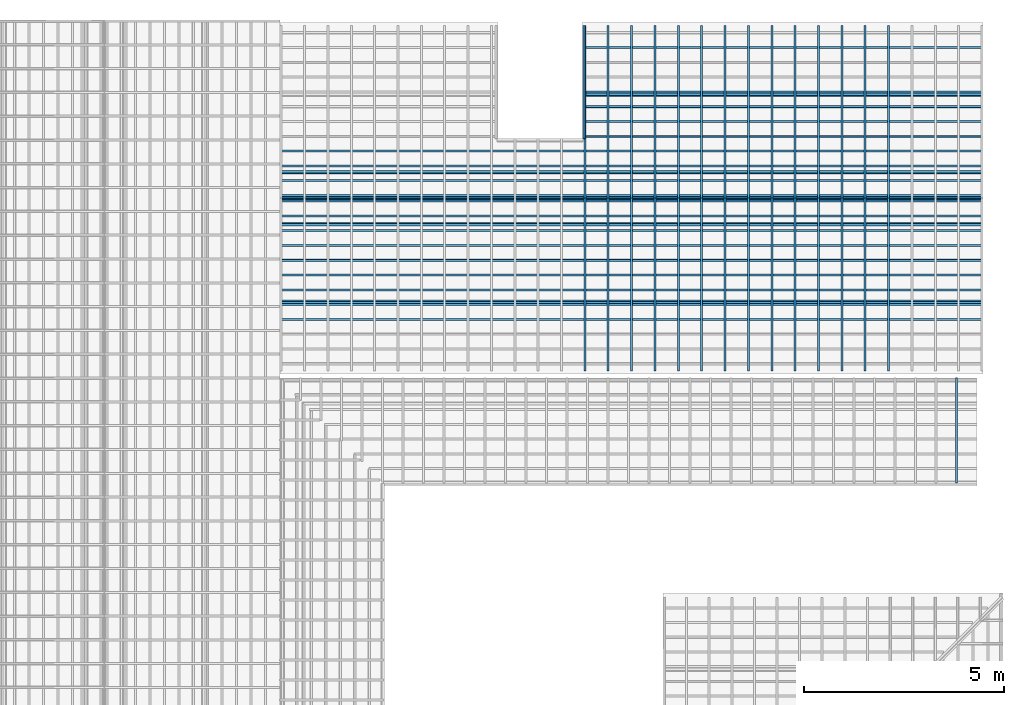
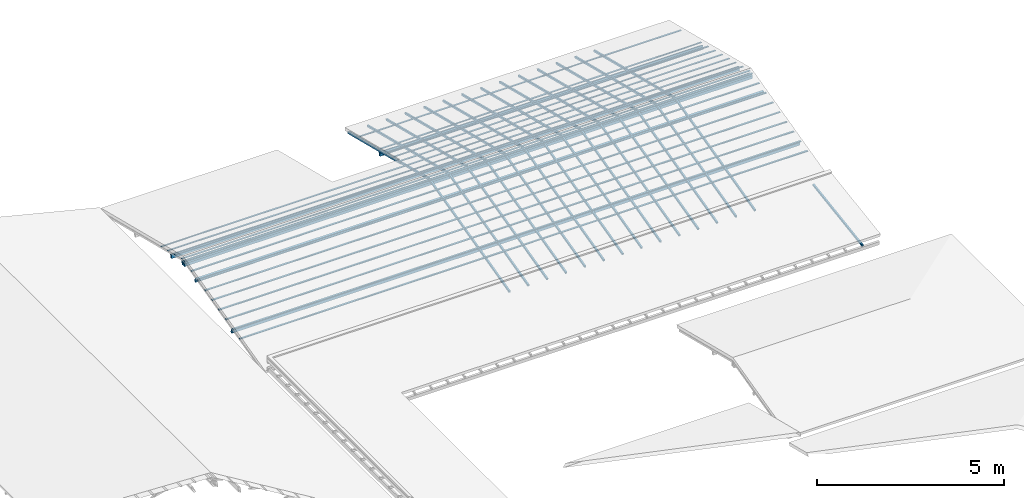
# One storey, part 7 of 10: 54 members, 4 elements without a shape of their own.
"""IFC2X3 building model written with IfcOpenShell, lengths in metres."""

from ifc_helpers import new_model, entity, si_unit, converted_unit, derived_unit, direction, frame, frame_2d, origin, origin_2d_with_axis, place, context, subcontext, project, spatial, rectangle, extrude, clip, halfspace, source, transform, mapped, material, type_object, type_shapes, element, aggregate, save


model = new_model("IFC2X3")

# Units and contexts
model_context = context("Model", 3, precision=1e-05, world=origin(), true_north=direction((6.12303176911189e-17, 1.0)))
body_context = subcontext(model_context, "Body", "Model", "MODEL_VIEW")
ifc_project = project(units=[si_unit("LENGTHUNIT", "METRE"), si_unit("AREAUNIT", "SQUARE_METRE"), si_unit("VOLUMEUNIT", "CUBIC_METRE"), converted_unit("PLANEANGLEUNIT", "DEGREE", entity("IfcRatioMeasure", 0.0174532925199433), si_unit("PLANEANGLEUNIT", "RADIAN"), dimensions=[0, 0, 0, 0, 0, 0, 0]), si_unit("MASSUNIT", "GRAM", prefix="KILO"), derived_unit("MASSDENSITYUNIT", [(si_unit("MASSUNIT", "GRAM", prefix="KILO"), 1), (si_unit("LENGTHUNIT", "METRE"), -3)]), si_unit("TIMEUNIT", "SECOND"), si_unit("FREQUENCYUNIT", "HERTZ"), si_unit("THERMODYNAMICTEMPERATUREUNIT", "DEGREE_CELSIUS"), derived_unit("THERMALTRANSMITTANCEUNIT", [(si_unit("MASSUNIT", "GRAM", prefix="KILO"), 1), (si_unit("THERMODYNAMICTEMPERATUREUNIT", "KELVIN"), -1), (si_unit("TIMEUNIT", "SECOND"), -3)]), derived_unit("VOLUMETRICFLOWRATEUNIT", [(si_unit("LENGTHUNIT", "METRE"), 3), (si_unit("TIMEUNIT", "SECOND"), -1)]), si_unit("ELECTRICCURRENTUNIT", "AMPERE"), si_unit("ELECTRICVOLTAGEUNIT", "VOLT"), si_unit("POWERUNIT", "WATT"), si_unit("FORCEUNIT", "NEWTON", prefix="KILO"), si_unit("ILLUMINANCEUNIT", "LUX"), si_unit("LUMINOUSFLUXUNIT", "LUMEN"), si_unit("LUMINOUSINTENSITYUNIT", "CANDELA"), derived_unit("USERDEFINED", [(si_unit("MASSUNIT", "GRAM", prefix="KILO"), -1), (si_unit("LENGTHUNIT", "METRE"), -2), (si_unit("TIMEUNIT", "SECOND"), 3), (si_unit("LUMINOUSFLUXUNIT", "LUMEN"), 1)]), derived_unit("LINEARVELOCITYUNIT", [(si_unit("LENGTHUNIT", "METRE"), 1), (si_unit("TIMEUNIT", "SECOND"), -1)]), si_unit("PRESSUREUNIT", "PASCAL"), derived_unit("USERDEFINED", [(si_unit("LENGTHUNIT", "METRE"), -2), (si_unit("MASSUNIT", "GRAM", prefix="KILO"), 1), (si_unit("TIMEUNIT", "SECOND"), -2)])], contexts=[model_context])

# Site, building, storey
site_placement = place(None, frame((26.9889013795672, -17.5624287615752, 0.0)))
site = spatial("IfcSite", under=ifc_project, at=site_placement, Name="Default", CompositionType="ELEMENT")
building_placement = place(site_placement, origin())
building = spatial("IfcBuilding", under=site, at=building_placement, Name="C. C. L. Monsenhor Antônio Sampaio", CompositionType="ELEMENT")
storey_placement = place(building_placement, frame((0.0, 0.0, 4.3)))
storey = spatial("IfcBuildingStorey", under=building, at=storey_placement, Name="COBERTURA BLOCO 01", CompositionType="ELEMENT", Elevation=4.3)

# Roof, member
curtain_wall_type_1 = type_object("IfcCurtainWallType", PredefinedType="NOTDEFINED")
roof_1_placement = place(storey_placement, frame((0.0, 0.0, -4.3)))
roof_1 = element("IfcRoof", 1, at=roof_1_placement, inside=storey, type_object=curtain_wall_type_1, ShapeType="NOTDEFINED")
ifc_material = material(Name=".Madeira")
member_type_1 = type_object("IfcMemberType", Name="6x5 cm", PredefinedType="MEMBER")
shared_shape_1 = source(origin(), body_context, "Body", "SweptSolid", [
    extrude(rectangle(XDim=0.06, YDim=0.05, at=origin_2d_with_axis()), frame((0.0, 0.05, -2.66464666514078), z_axis=(0.0, 0.0, 1.0), x_axis=(0.0, -1.0, 0.0)), (0.0, 0.0, 1.0), 2.66464666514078),
])
type_shapes(member_type_1, [shared_shape_1])
member_1_placement = place(storey_placement, frame((11.0670947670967, -16.9030663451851, 0.599737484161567), z_axis=(0.0, 0.988936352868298, 0.148340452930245), x_axis=(1.0, 0.0, 0.0)))
member_1 = element("IfcMember", 2, at=member_1_placement, type_object=member_type_1, material=ifc_material, Name="Rectangular Mullion:6x5 cm", ObjectType="6x5 cm", context=body_context, shape_type="MappedRepresentation", body=[
    mapped(shared_shape_1, transform((0.0, 0.0, 0.0), scale=1.0)),
])
aggregate(roof_1, [member_1])

# Roof, members
curtain_wall_type_2 = type_object("IfcCurtainWallType", PredefinedType="NOTDEFINED")
roof_2_placement = place(storey_placement, frame((0.0, 0.0, -4.3)))
roof_2 = element("IfcRoof", 3, at=roof_2_placement, inside=storey, type_object=curtain_wall_type_2, ShapeType="NOTDEFINED")
member_type_2 = type_object("IfcMemberType", Name="Ripa", PredefinedType="MEMBER")
shared_shape_2 = source(origin(), body_context, "Body", "SweptSolid", [
    extrude(rectangle(XDim=0.015, YDim=0.05, at=frame_2d((-1.69135538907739e-17, 0.0), x_axis=(1.0, 0.0))), frame((-0.025, -0.1875, -17.5700000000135), z_axis=(0.0, 0.0, 1.0), x_axis=(0.0, -1.0, 0.0)), (0.0, 0.0, 1.0), 17.5700000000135),
])
type_shapes(member_type_2, [shared_shape_2])
member_2_placement = place(storey_placement, frame((11.7294477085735, -12.4130663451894, 1.11115528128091), z_axis=(1.0, 0.0, 0.0), x_axis=(0.0, -0.970142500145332, 0.242535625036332)))
member_2 = element("IfcMember", 4, at=member_2_placement, type_object=member_type_2, material=ifc_material, Name="Rectangular Mullion:Ripa", ObjectType="Ripa", context=body_context, shape_type="MappedRepresentation", body=[
    mapped(shared_shape_2, transform((0.0, 0.0, 0.0), scale=1.0)),
])
member_3_placement = place(storey_placement, frame((-5.84055229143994, -12.4130663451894, 1.11115528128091), z_axis=(-1.0, 0.0, 0.0), x_axis=(0.0, 0.970142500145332, 0.242535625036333)))
member_3 = element("IfcMember", 5, at=member_3_placement, type_object=member_type_2, material=ifc_material, Name="Rectangular Mullion:Ripa", ObjectType="Ripa", context=body_context, shape_type="MappedRepresentation", body=[
    mapped(shared_shape_2, transform((0.0, 0.0, 0.0), scale=1.0)),
])
member_type_3 = type_object("IfcMemberType", Name="Ripa", PredefinedType="MEMBER")
shared_shape_3 = source(origin(), body_context, "Body", "SweptSolid", [
    extrude(rectangle(XDim=0.015, YDim=0.05, at=frame_2d((-1.69135538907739e-17, 0.0), x_axis=(1.0, 0.0))), frame((0.025, -0.1875, -10.0), z_axis=(0.0, 0.0, 1.0), x_axis=(0.0, -1.0, 0.0)), (0.0, 0.0, 1.0), 9.99999999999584),
])
type_shapes(member_type_3, [shared_shape_3])
member_4_placement = place(storey_placement, frame((11.7294477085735, -8.66685979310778, 0.174603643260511), z_axis=(1.0, 0.0, 0.0), x_axis=(0.0, -0.970142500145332, 0.242535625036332)))
member_4 = element("IfcMember", 6, at=member_4_placement, type_object=member_type_3, material=ifc_material, Name="Rectangular Mullion:Ripa", ObjectType="Ripa", context=body_context, shape_type="MappedRepresentation", body=[
    mapped(shared_shape_3, transform((0.0, 0.0, 0.0), scale=1.0)),
])
member_5_placement = place(storey_placement, frame((11.7294477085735, -9.77616962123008, 0.451931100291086), z_axis=(1.0, 0.0, 0.0), x_axis=(0.0, -0.970142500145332, 0.242535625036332)))
member_5 = element("IfcMember", 7, at=member_5_placement, type_object=member_type_3, material=ifc_material, Name="Rectangular Mullion:Ripa", ObjectType="Ripa", context=body_context, shape_type="MappedRepresentation", body=[
    mapped(shared_shape_3, transform((0.0, 0.0, 0.0), scale=1.0)),
])
member_6_placement = place(storey_placement, frame((11.7294477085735, -10.1459395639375, 0.544373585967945), z_axis=(1.0, 0.0, 0.0), x_axis=(0.0, -0.970142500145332, 0.242535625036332)))
member_6 = element("IfcMember", 8, at=member_6_placement, type_object=member_type_3, material=ifc_material, Name="Rectangular Mullion:Ripa", ObjectType="Ripa", context=body_context, shape_type="MappedRepresentation", body=[
    mapped(shared_shape_3, transform((0.0, 0.0, 0.0), scale=1.0)),
])
member_7_placement = place(storey_placement, frame((11.7294477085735, -10.5157095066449, 0.636816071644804), z_axis=(1.0, 0.0, 0.0), x_axis=(0.0, -0.970142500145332, 0.242535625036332)))
member_7 = element("IfcMember", 9, at=member_7_placement, type_object=member_type_3, material=ifc_material, Name="Rectangular Mullion:Ripa", ObjectType="Ripa", context=body_context, shape_type="MappedRepresentation", body=[
    mapped(shared_shape_3, transform((0.0, 0.0, 0.0), scale=1.0)),
])
member_8_placement = place(storey_placement, frame((11.7294477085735, -10.8854794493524, 0.729258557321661), z_axis=(1.0, 0.0, 0.0), x_axis=(0.0, -0.970142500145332, 0.242535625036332)))
member_8 = element("IfcMember", 10, at=member_8_placement, type_object=member_type_3, material=ifc_material, Name="Rectangular Mullion:Ripa", ObjectType="Ripa", context=body_context, shape_type="MappedRepresentation", body=[
    mapped(shared_shape_3, transform((0.0, 0.0, 0.0), scale=1.0)),
])
member_type_4 = type_object("IfcMemberType", Name="Ripa", PredefinedType="MEMBER")
shared_shape_4 = source(origin(), body_context, "Body", "SweptSolid", [
    extrude(rectangle(XDim=0.015, YDim=0.05, at=frame_2d((-1.69135538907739e-17, 0.0), x_axis=(1.0, 0.0))), frame((0.025, -0.1875, -17.5700000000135), z_axis=(0.0, 0.0, 1.0), x_axis=(0.0, -1.0, 0.0)), (0.0, 0.0, 1.0), 17.5700000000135),
])
type_shapes(member_type_4, [shared_shape_4])
member_9_placement = place(storey_placement, frame((11.7294477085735, -11.2552493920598, 0.821701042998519), z_axis=(1.0, 0.0, 0.0), x_axis=(0.0, -0.970142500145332, 0.242535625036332)))
member_9 = element("IfcMember", 11, at=member_9_placement, type_object=member_type_4, material=ifc_material, Name="Rectangular Mullion:Ripa", ObjectType="Ripa", context=body_context, shape_type="MappedRepresentation", body=[
    mapped(shared_shape_4, transform((0.0, 0.0, 0.0), scale=1.0)),
])
member_10_placement = place(storey_placement, frame((11.7294477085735, -11.6250193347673, 0.914143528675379), z_axis=(1.0, 0.0, 0.0), x_axis=(0.0, -0.970142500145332, 0.242535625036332)))
member_10 = element("IfcMember", 12, at=member_10_placement, type_object=member_type_4, material=ifc_material, Name="Rectangular Mullion:Ripa", ObjectType="Ripa", context=body_context, shape_type="MappedRepresentation", body=[
    mapped(shared_shape_4, transform((0.0, 0.0, 0.0), scale=1.0)),
])
member_11_placement = place(storey_placement, frame((11.7294477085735, -11.9947892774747, 1.00658601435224), z_axis=(1.0, 0.0, 0.0), x_axis=(0.0, -0.970142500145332, 0.242535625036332)))
member_11 = element("IfcMember", 13, at=member_11_placement, type_object=member_type_4, material=ifc_material, Name="Rectangular Mullion:Ripa", ObjectType="Ripa", context=body_context, shape_type="MappedRepresentation", body=[
    mapped(shared_shape_4, transform((0.0, 0.0, 0.0), scale=1.0)),
])
member_12_placement = place(storey_placement, frame((-5.84055229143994, -15.4197330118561, 0.359488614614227), z_axis=(-1.0, 0.0, 0.0), x_axis=(0.0, 0.970142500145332, 0.242535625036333)))
member_12 = element("IfcMember", 14, at=member_12_placement, type_object=member_type_4, material=ifc_material, Name="Rectangular Mullion:Ripa", ObjectType="Ripa", context=body_context, shape_type="MappedRepresentation", body=[
    mapped(shared_shape_4, transform((0.0, 0.0, 0.0), scale=1.0)),
])
member_13_placement = place(storey_placement, frame((-5.84055229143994, -15.0499630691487, 0.451931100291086), z_axis=(-1.0, 0.0, 0.0), x_axis=(0.0, 0.970142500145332, 0.242535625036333)))
member_13 = element("IfcMember", 15, at=member_13_placement, type_object=member_type_4, material=ifc_material, Name="Rectangular Mullion:Ripa", ObjectType="Ripa", context=body_context, shape_type="MappedRepresentation", body=[
    mapped(shared_shape_4, transform((0.0, 0.0, 0.0), scale=1.0)),
])
member_14_placement = place(storey_placement, frame((-5.84055229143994, -14.6801931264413, 0.544373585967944), z_axis=(-1.0, 0.0, 0.0), x_axis=(0.0, 0.970142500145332, 0.242535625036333)))
member_14 = element("IfcMember", 16, at=member_14_placement, type_object=member_type_4, material=ifc_material, Name="Rectangular Mullion:Ripa", ObjectType="Ripa", context=body_context, shape_type="MappedRepresentation", body=[
    mapped(shared_shape_4, transform((0.0, 0.0, 0.0), scale=1.0)),
])
member_15_placement = place(storey_placement, frame((-5.84055229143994, -14.3104231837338, 0.636816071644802), z_axis=(-1.0, 0.0, 0.0), x_axis=(0.0, 0.970142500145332, 0.242535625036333)))
member_15 = element("IfcMember", 17, at=member_15_placement, type_object=member_type_4, material=ifc_material, Name="Rectangular Mullion:Ripa", ObjectType="Ripa", context=body_context, shape_type="MappedRepresentation", body=[
    mapped(shared_shape_4, transform((0.0, 0.0, 0.0), scale=1.0)),
])
member_16_placement = place(storey_placement, frame((-5.84055229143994, -13.9406532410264, 0.729258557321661), z_axis=(-1.0, 0.0, 0.0), x_axis=(0.0, 0.970142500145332, 0.242535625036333)))
member_16 = element("IfcMember", 18, at=member_16_placement, type_object=member_type_4, material=ifc_material, Name="Rectangular Mullion:Ripa", ObjectType="Ripa", context=body_context, shape_type="MappedRepresentation", body=[
    mapped(shared_shape_4, transform((0.0, 0.0, 0.0), scale=1.0)),
])
member_17_placement = place(storey_placement, frame((-5.84055229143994, -13.570883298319, 0.821701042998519), z_axis=(-1.0, 0.0, 0.0), x_axis=(0.0, 0.970142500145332, 0.242535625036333)))
member_17 = element("IfcMember", 19, at=member_17_placement, type_object=member_type_4, material=ifc_material, Name="Rectangular Mullion:Ripa", ObjectType="Ripa", context=body_context, shape_type="MappedRepresentation", body=[
    mapped(shared_shape_4, transform((0.0, 0.0, 0.0), scale=1.0)),
])
member_18_placement = place(storey_placement, frame((-5.84055229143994, -13.2011133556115, 0.914143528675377), z_axis=(-1.0, 0.0, 0.0), x_axis=(0.0, 0.970142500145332, 0.242535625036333)))
member_18 = element("IfcMember", 20, at=member_18_placement, type_object=member_type_4, material=ifc_material, Name="Rectangular Mullion:Ripa", ObjectType="Ripa", context=body_context, shape_type="MappedRepresentation", body=[
    mapped(shared_shape_4, transform((0.0, 0.0, 0.0), scale=1.0)),
])
member_19_placement = place(storey_placement, frame((-5.84055229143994, -12.8313434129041, 1.00658601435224), z_axis=(-1.0, 0.0, 0.0), x_axis=(0.0, 0.970142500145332, 0.242535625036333)))
member_19 = element("IfcMember", 21, at=member_19_placement, type_object=member_type_4, material=ifc_material, Name="Rectangular Mullion:Ripa", ObjectType="Ripa", context=body_context, shape_type="MappedRepresentation", body=[
    mapped(shared_shape_4, transform((0.0, 0.0, 0.0), scale=1.0)),
])
aggregate(roof_2, [member_2, member_4, member_5, member_6, member_7, member_8, member_9, member_10, member_11, member_3, member_12, member_13, member_14, member_15, member_16, member_17, member_18, member_19])

curtain_wall_type_3 = type_object("IfcCurtainWallType", PredefinedType="NOTDEFINED")
roof_3_placement = place(storey_placement, frame((0.0, 0.0, -4.3)))
roof_3 = element("IfcRoof", 22, at=roof_3_placement, inside=storey, type_object=curtain_wall_type_3, ShapeType="NOTDEFINED")
member_type_5 = type_object("IfcMemberType", Name="Terça", PredefinedType="MEMBER")
shared_shape_5 = source(origin(), body_context, "Body", "SweptSolid", [
    extrude(rectangle(XDim=0.12, YDim=0.0599999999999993, at=origin_2d_with_axis()), frame((-0.0299999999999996, -0.06, -17.5700000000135), z_axis=(0.0, 0.0, 1.0), x_axis=(0.0, -1.0, 0.0)), (0.0, 0.0, 1.0), 17.5700000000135),
])
type_shapes(member_type_5, [shared_shape_5])
member_20_placement = place(storey_placement, frame((-5.84055229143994, -12.4130663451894, 1.11182764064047), z_axis=(-1.0, 0.0, 0.0), x_axis=(0.0, 0.970142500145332, 0.242535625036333)))
member_20 = element("IfcMember", 23, at=member_20_placement, type_object=member_type_5, material=ifc_material, Name="Rectangular Mullion:Terça", ObjectType="Terça", context=body_context, shape_type="MappedRepresentation", body=[
    mapped(shared_shape_5, transform((0.0, 0.0, 0.0), scale=1.0)),
])
member_21_placement = place(storey_placement, frame((11.7294477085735, -12.4130663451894, 1.11182764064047), z_axis=(1.0, 0.0, 0.0), x_axis=(0.0, -0.970142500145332, 0.242535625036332)))
member_21 = element("IfcMember", 24, at=member_21_placement, type_object=member_type_5, material=ifc_material, Name="Rectangular Mullion:Terça", ObjectType="Terça", context=body_context, shape_type="MappedRepresentation", body=[
    mapped(shared_shape_5, transform((0.0, 0.0, 0.0), scale=1.0)),
])
member_type_6 = type_object("IfcMemberType", Name="Terça", PredefinedType="MEMBER")
shared_shape_6 = source(origin(), body_context, "Body", "SweptSolid", [
    extrude(rectangle(XDim=0.12, YDim=0.0599999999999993, at=origin_2d_with_axis()), frame((0.0, -0.06, -17.5700000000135), z_axis=(0.0, 0.0, 1.0), x_axis=(0.0, -1.0, 0.0)), (0.0, 0.0, 1.0), 17.5700000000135),
])
type_shapes(member_type_6, [shared_shape_6])
member_22_placement = place(storey_placement, frame((-5.84055229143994, -14.9876320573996, 0.468186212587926), z_axis=(-1.0, 0.0, 0.0), x_axis=(0.0, 0.970142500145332, 0.242535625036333)))
member_22 = element("IfcMember", 25, at=member_22_placement, type_object=member_type_6, material=ifc_material, Name="Rectangular Mullion:Terça", ObjectType="Terça", context=body_context, shape_type="MappedRepresentation", body=[
    mapped(shared_shape_6, transform((0.0, 0.0, 0.0), scale=1.0)),
])
member_23_placement = place(storey_placement, frame((-5.84055229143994, -13.0473470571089, 0.953257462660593), z_axis=(-1.0, 0.0, 0.0), x_axis=(0.0, 0.970142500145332, 0.242535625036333)))
member_23 = element("IfcMember", 26, at=member_23_placement, type_object=member_type_6, material=ifc_material, Name="Rectangular Mullion:Terça", ObjectType="Terça", context=body_context, shape_type="MappedRepresentation", body=[
    mapped(shared_shape_6, transform((0.0, 0.0, 0.0), scale=1.0)),
])
member_24_placement = place(storey_placement, frame((11.7294477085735, -11.7787856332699, 0.953257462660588), z_axis=(1.0, 0.0, 0.0), x_axis=(0.0, -0.970142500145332, 0.242535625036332)))
member_24 = element("IfcMember", 27, at=member_24_placement, type_object=member_type_6, material=ifc_material, Name="Rectangular Mullion:Terça", ObjectType="Terça", context=body_context, shape_type="MappedRepresentation", body=[
    mapped(shared_shape_6, transform((0.0, 0.0, 0.0), scale=1.0)),
])
member_type_7 = type_object("IfcMemberType", Name="Terça", PredefinedType="MEMBER")
shared_shape_7 = source(origin(), body_context, "Body", "SweptSolid", [
    extrude(rectangle(XDim=0.12, YDim=0.0599999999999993, at=origin_2d_with_axis()), frame((0.0, -0.06, -10.0), z_axis=(0.0, 0.0, 1.0), x_axis=(0.0, -1.0, 0.0)), (0.0, 0.0, 1.0), 9.99999999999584),
])
type_shapes(member_type_7, [shared_shape_7])
member_25_placement = place(storey_placement, frame((11.7294477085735, -9.83850063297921, 0.468186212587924), z_axis=(1.0, 0.0, 0.0), x_axis=(0.0, -0.970142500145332, 0.242535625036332)))
member_25 = element("IfcMember", 28, at=member_25_placement, type_object=member_type_7, material=ifc_material, Name="Rectangular Mullion:Terça", ObjectType="Terça", context=body_context, shape_type="MappedRepresentation", body=[
    mapped(shared_shape_7, transform((0.0, 0.0, 0.0), scale=1.0)),
])
aggregate(roof_3, [member_20, member_22, member_23, member_21, member_25, member_24])

curtain_wall_type_4 = type_object("IfcCurtainWallType", PredefinedType="NOTDEFINED")
roof_4_placement = place(storey_placement, frame((0.0, 0.0, -4.3)))
roof_4 = element("IfcRoof", 29, at=roof_4_placement, inside=storey, type_object=curtain_wall_type_4, ShapeType="NOTDEFINED")
member_type_8 = type_object("IfcMemberType", Name="Caibro", PredefinedType="MEMBER")
shared_shape_8 = source(origin(), body_context, "Body", "Clipping", [
    clip(extrude(rectangle(XDim=0.06, YDim=0.0499999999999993, at=origin_2d_with_axis()), frame((0.0, -0.03, -4.43310795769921), z_axis=(0.0, 0.0, 1.0), x_axis=(0.0, -1.0, 0.0)), (0.0, 0.0, 1.0), 4.44810795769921), halfspace(frame((-0.3048, 0.0, 0.0), z_axis=(0.0, 0.242535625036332, 0.970142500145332), x_axis=(0.0, 0.970142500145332, -0.242535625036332)), False)),
])
type_shapes(member_type_8, [shared_shape_8])
member_26_placement = place(storey_placement, frame((1.77644770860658, -12.4105663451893, 1.23615528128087), z_axis=(0.0, 0.970142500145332, 0.242535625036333), x_axis=(1.0, 0.0, 0.0)))
member_26 = element("IfcMember", 30, at=member_26_placement, type_object=member_type_8, material=ifc_material, Name="Rectangular Mullion:Caibro", ObjectType="Caibro", context=body_context, shape_type="MappedRepresentation", body=[
    mapped(shared_shape_8, transform((0.0, 0.0, 0.0), scale=1.0)),
])
member_27_placement = place(storey_placement, frame((2.36044770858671, -12.4105663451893, 1.23615528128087), z_axis=(0.0, 0.970142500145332, 0.242535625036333), x_axis=(1.0, 0.0, 0.0)))
member_27 = element("IfcMember", 31, at=member_27_placement, type_object=member_type_8, material=ifc_material, Name="Rectangular Mullion:Caibro", ObjectType="Caibro", context=body_context, shape_type="MappedRepresentation", body=[
    mapped(shared_shape_8, transform((0.0, 0.0, 0.0), scale=1.0)),
])
member_28_placement = place(storey_placement, frame((2.94444770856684, -12.4105663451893, 1.23615528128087), z_axis=(0.0, 0.970142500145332, 0.242535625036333), x_axis=(1.0, 0.0, 0.0)))
member_28 = element("IfcMember", 32, at=member_28_placement, type_object=member_type_8, material=ifc_material, Name="Rectangular Mullion:Caibro", ObjectType="Caibro", context=body_context, shape_type="MappedRepresentation", body=[
    mapped(shared_shape_8, transform((0.0, 0.0, 0.0), scale=1.0)),
])
member_29_placement = place(storey_placement, frame((3.52844770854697, -12.4105663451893, 1.23615528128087), z_axis=(0.0, 0.970142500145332, 0.242535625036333), x_axis=(1.0, 0.0, 0.0)))
member_29 = element("IfcMember", 33, at=member_29_placement, type_object=member_type_8, material=ifc_material, Name="Rectangular Mullion:Caibro", ObjectType="Caibro", context=body_context, shape_type="MappedRepresentation", body=[
    mapped(shared_shape_8, transform((0.0, 0.0, 0.0), scale=1.0)),
])
member_30_placement = place(storey_placement, frame((4.1124477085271, -12.4105663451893, 1.23615528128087), z_axis=(0.0, 0.970142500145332, 0.242535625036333), x_axis=(1.0, 0.0, 0.0)))
member_30 = element("IfcMember", 34, at=member_30_placement, type_object=member_type_8, material=ifc_material, Name="Rectangular Mullion:Caibro", ObjectType="Caibro", context=body_context, shape_type="MappedRepresentation", body=[
    mapped(shared_shape_8, transform((0.0, 0.0, 0.0), scale=1.0)),
])
member_31_placement = place(storey_placement, frame((4.69644770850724, -12.4105663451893, 1.23615528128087), z_axis=(0.0, 0.970142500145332, 0.242535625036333), x_axis=(1.0, 0.0, 0.0)))
member_31 = element("IfcMember", 35, at=member_31_placement, type_object=member_type_8, material=ifc_material, Name="Rectangular Mullion:Caibro", ObjectType="Caibro", context=body_context, shape_type="MappedRepresentation", body=[
    mapped(shared_shape_8, transform((0.0, 0.0, 0.0), scale=1.0)),
])
member_32_placement = place(storey_placement, frame((5.28044770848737, -12.4105663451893, 1.23615528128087), z_axis=(0.0, 0.970142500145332, 0.242535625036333), x_axis=(1.0, 0.0, 0.0)))
member_32 = element("IfcMember", 36, at=member_32_placement, type_object=member_type_8, material=ifc_material, Name="Rectangular Mullion:Caibro", ObjectType="Caibro", context=body_context, shape_type="MappedRepresentation", body=[
    mapped(shared_shape_8, transform((0.0, 0.0, 0.0), scale=1.0)),
])
member_33_placement = place(storey_placement, frame((5.8644477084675, -12.4105663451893, 1.23615528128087), z_axis=(0.0, 0.970142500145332, 0.242535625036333), x_axis=(1.0, 0.0, 0.0)))
member_33 = element("IfcMember", 37, at=member_33_placement, type_object=member_type_8, material=ifc_material, Name="Rectangular Mullion:Caibro", ObjectType="Caibro", context=body_context, shape_type="MappedRepresentation", body=[
    mapped(shared_shape_8, transform((0.0, 0.0, 0.0), scale=1.0)),
])
member_34_placement = place(storey_placement, frame((6.44844770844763, -12.4105663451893, 1.23615528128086), z_axis=(0.0, 0.970142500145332, 0.242535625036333), x_axis=(1.0, 0.0, 0.0)))
member_34 = element("IfcMember", 38, at=member_34_placement, type_object=member_type_8, material=ifc_material, Name="Rectangular Mullion:Caibro", ObjectType="Caibro", context=body_context, shape_type="MappedRepresentation", body=[
    mapped(shared_shape_8, transform((0.0, 0.0, 0.0), scale=1.0)),
])
member_35_placement = place(storey_placement, frame((7.03244770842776, -12.4105663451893, 1.23615528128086), z_axis=(0.0, 0.970142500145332, 0.242535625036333), x_axis=(1.0, 0.0, 0.0)))
member_35 = element("IfcMember", 39, at=member_35_placement, type_object=member_type_8, material=ifc_material, Name="Rectangular Mullion:Caibro", ObjectType="Caibro", context=body_context, shape_type="MappedRepresentation", body=[
    mapped(shared_shape_8, transform((0.0, 0.0, 0.0), scale=1.0)),
])
member_36_placement = place(storey_placement, frame((7.61644770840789, -12.4105663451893, 1.23615528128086), z_axis=(0.0, 0.970142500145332, 0.242535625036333), x_axis=(1.0, 0.0, 0.0)))
member_36 = element("IfcMember", 40, at=member_36_placement, type_object=member_type_8, material=ifc_material, Name="Rectangular Mullion:Caibro", ObjectType="Caibro", context=body_context, shape_type="MappedRepresentation", body=[
    mapped(shared_shape_8, transform((0.0, 0.0, 0.0), scale=1.0)),
])
member_37_placement = place(storey_placement, frame((8.20044770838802, -12.4105663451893, 1.23615528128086), z_axis=(0.0, 0.970142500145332, 0.242535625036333), x_axis=(1.0, 0.0, 0.0)))
member_37 = element("IfcMember", 41, at=member_37_placement, type_object=member_type_8, material=ifc_material, Name="Rectangular Mullion:Caibro", ObjectType="Caibro", context=body_context, shape_type="MappedRepresentation", body=[
    mapped(shared_shape_8, transform((0.0, 0.0, 0.0), scale=1.0)),
])
member_38_placement = place(storey_placement, frame((8.78444770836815, -12.4105663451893, 1.23615528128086), z_axis=(0.0, 0.970142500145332, 0.242535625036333), x_axis=(1.0, 0.0, 0.0)))
member_38 = element("IfcMember", 42, at=member_38_placement, type_object=member_type_8, material=ifc_material, Name="Rectangular Mullion:Caibro", ObjectType="Caibro", context=body_context, shape_type="MappedRepresentation", body=[
    mapped(shared_shape_8, transform((0.0, 0.0, 0.0), scale=1.0)),
])
member_39_placement = place(storey_placement, frame((9.36844770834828, -12.4105663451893, 1.23615528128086), z_axis=(0.0, 0.970142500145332, 0.242535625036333), x_axis=(1.0, 0.0, 0.0)))
member_39 = element("IfcMember", 43, at=member_39_placement, type_object=member_type_8, material=ifc_material, Name="Rectangular Mullion:Caibro", ObjectType="Caibro", context=body_context, shape_type="MappedRepresentation", body=[
    mapped(shared_shape_8, transform((0.0, 0.0, 0.0), scale=1.0)),
])
member_40_placement = place(storey_placement, frame((9.36844770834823, -12.4105663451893, 1.23615528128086), z_axis=(0.0, -0.970142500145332, 0.242535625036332), x_axis=(-1.0, 0.0, 0.0)))
member_40 = element("IfcMember", 44, at=member_40_placement, type_object=member_type_8, material=ifc_material, Name="Rectangular Mullion:Caibro", ObjectType="Caibro", context=body_context, shape_type="MappedRepresentation", body=[
    mapped(shared_shape_8, transform((0.0, 0.0, 0.0), scale=1.0)),
])
member_41_placement = place(storey_placement, frame((8.7844477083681, -12.4105663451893, 1.23615528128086), z_axis=(0.0, -0.970142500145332, 0.242535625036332), x_axis=(-1.0, 0.0, 0.0)))
member_41 = element("IfcMember", 45, at=member_41_placement, type_object=member_type_8, material=ifc_material, Name="Rectangular Mullion:Caibro", ObjectType="Caibro", context=body_context, shape_type="MappedRepresentation", body=[
    mapped(shared_shape_8, transform((0.0, 0.0, 0.0), scale=1.0)),
])
member_42_placement = place(storey_placement, frame((8.20044770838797, -12.4105663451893, 1.23615528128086), z_axis=(0.0, -0.970142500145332, 0.242535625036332), x_axis=(-1.0, 0.0, 0.0)))
member_42 = element("IfcMember", 46, at=member_42_placement, type_object=member_type_8, material=ifc_material, Name="Rectangular Mullion:Caibro", ObjectType="Caibro", context=body_context, shape_type="MappedRepresentation", body=[
    mapped(shared_shape_8, transform((0.0, 0.0, 0.0), scale=1.0)),
])
member_43_placement = place(storey_placement, frame((7.61644770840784, -12.4105663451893, 1.23615528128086), z_axis=(0.0, -0.970142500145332, 0.242535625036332), x_axis=(-1.0, 0.0, 0.0)))
member_43 = element("IfcMember", 47, at=member_43_placement, type_object=member_type_8, material=ifc_material, Name="Rectangular Mullion:Caibro", ObjectType="Caibro", context=body_context, shape_type="MappedRepresentation", body=[
    mapped(shared_shape_8, transform((0.0, 0.0, 0.0), scale=1.0)),
])
member_44_placement = place(storey_placement, frame((7.03244770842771, -12.4105663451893, 1.23615528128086), z_axis=(0.0, -0.970142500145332, 0.242535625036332), x_axis=(-1.0, 0.0, 0.0)))
member_44 = element("IfcMember", 48, at=member_44_placement, type_object=member_type_8, material=ifc_material, Name="Rectangular Mullion:Caibro", ObjectType="Caibro", context=body_context, shape_type="MappedRepresentation", body=[
    mapped(shared_shape_8, transform((0.0, 0.0, 0.0), scale=1.0)),
])
member_45_placement = place(storey_placement, frame((6.44844770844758, -12.4105663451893, 1.23615528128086), z_axis=(0.0, -0.970142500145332, 0.242535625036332), x_axis=(-1.0, 0.0, 0.0)))
member_45 = element("IfcMember", 49, at=member_45_placement, type_object=member_type_8, material=ifc_material, Name="Rectangular Mullion:Caibro", ObjectType="Caibro", context=body_context, shape_type="MappedRepresentation", body=[
    mapped(shared_shape_8, transform((0.0, 0.0, 0.0), scale=1.0)),
])
member_46_placement = place(storey_placement, frame((5.86444770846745, -12.4105663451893, 1.23615528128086), z_axis=(0.0, -0.970142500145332, 0.242535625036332), x_axis=(-1.0, 0.0, 0.0)))
member_46 = element("IfcMember", 50, at=member_46_placement, type_object=member_type_8, material=ifc_material, Name="Rectangular Mullion:Caibro", ObjectType="Caibro", context=body_context, shape_type="MappedRepresentation", body=[
    mapped(shared_shape_8, transform((0.0, 0.0, 0.0), scale=1.0)),
])
member_47_placement = place(storey_placement, frame((5.28044770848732, -12.4105663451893, 1.23615528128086), z_axis=(0.0, -0.970142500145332, 0.242535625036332), x_axis=(-1.0, 0.0, 0.0)))
member_47 = element("IfcMember", 51, at=member_47_placement, type_object=member_type_8, material=ifc_material, Name="Rectangular Mullion:Caibro", ObjectType="Caibro", context=body_context, shape_type="MappedRepresentation", body=[
    mapped(shared_shape_8, transform((0.0, 0.0, 0.0), scale=1.0)),
])
member_48_placement = place(storey_placement, frame((4.69644770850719, -12.4105663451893, 1.23615528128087), z_axis=(0.0, -0.970142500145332, 0.242535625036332), x_axis=(-1.0, 0.0, 0.0)))
member_48 = element("IfcMember", 52, at=member_48_placement, type_object=member_type_8, material=ifc_material, Name="Rectangular Mullion:Caibro", ObjectType="Caibro", context=body_context, shape_type="MappedRepresentation", body=[
    mapped(shared_shape_8, transform((0.0, 0.0, 0.0), scale=1.0)),
])
member_49_placement = place(storey_placement, frame((4.11244770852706, -12.4105663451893, 1.23615528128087), z_axis=(0.0, -0.970142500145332, 0.242535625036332), x_axis=(-1.0, 0.0, 0.0)))
member_49 = element("IfcMember", 53, at=member_49_placement, type_object=member_type_8, material=ifc_material, Name="Rectangular Mullion:Caibro", ObjectType="Caibro", context=body_context, shape_type="MappedRepresentation", body=[
    mapped(shared_shape_8, transform((0.0, 0.0, 0.0), scale=1.0)),
])
member_50_placement = place(storey_placement, frame((3.52844770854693, -12.4105663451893, 1.23615528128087), z_axis=(0.0, -0.970142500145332, 0.242535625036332), x_axis=(-1.0, 0.0, 0.0)))
member_50 = element("IfcMember", 54, at=member_50_placement, type_object=member_type_8, material=ifc_material, Name="Rectangular Mullion:Caibro", ObjectType="Caibro", context=body_context, shape_type="MappedRepresentation", body=[
    mapped(shared_shape_8, transform((0.0, 0.0, 0.0), scale=1.0)),
])
member_51_placement = place(storey_placement, frame((2.94444770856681, -12.4105663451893, 1.23615528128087), z_axis=(0.0, -0.970142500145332, 0.242535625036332), x_axis=(-1.0, 0.0, 0.0)))
member_51 = element("IfcMember", 55, at=member_51_placement, type_object=member_type_8, material=ifc_material, Name="Rectangular Mullion:Caibro", ObjectType="Caibro", context=body_context, shape_type="MappedRepresentation", body=[
    mapped(shared_shape_8, transform((0.0, 0.0, 0.0), scale=1.0)),
])
member_52_placement = place(storey_placement, frame((2.36044770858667, -12.4105663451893, 1.23615528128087), z_axis=(0.0, -0.970142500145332, 0.242535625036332), x_axis=(-1.0, 0.0, 0.0)))
member_52 = element("IfcMember", 56, at=member_52_placement, type_object=member_type_8, material=ifc_material, Name="Rectangular Mullion:Caibro", ObjectType="Caibro", context=body_context, shape_type="MappedRepresentation", body=[
    mapped(shared_shape_8, transform((0.0, 0.0, 0.0), scale=1.0)),
])
member_53_placement = place(storey_placement, frame((1.77644770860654, -12.4105663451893, 1.23615528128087), z_axis=(0.0, -0.970142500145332, 0.242535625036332), x_axis=(-1.0, 0.0, 0.0)))
member_53 = element("IfcMember", 57, at=member_53_placement, type_object=member_type_8, material=ifc_material, Name="Rectangular Mullion:Caibro", ObjectType="Caibro", context=body_context, shape_type="MappedRepresentation", body=[
    mapped(shared_shape_8, transform((0.0, 0.0, 0.0), scale=1.0)),
])
member_type_9 = type_object("IfcMemberType", Name="Caibro", PredefinedType="MEMBER")
shared_shape_9 = source(origin(), body_context, "Body", "SweptSolid", [
    extrude(rectangle(XDim=0.06, YDim=0.0499999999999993, at=origin_2d_with_axis()), frame((-0.0249999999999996, -0.03, -2.91271275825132), z_axis=(0.0, 0.0, 1.0), x_axis=(0.0, -1.0, 0.0)), (0.0, 0.0, 1.0), 2.91271275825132),
])
type_shapes(member_type_9, [shared_shape_9])
member_54_placement = place(storey_placement, frame((1.72944770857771, -10.935566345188, 0.867405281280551), z_axis=(0.0, -0.970142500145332, 0.242535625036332), x_axis=(-1.0, 0.0, 0.0)))
member_54 = element("IfcMember", 58, at=member_54_placement, type_object=member_type_9, material=ifc_material, Name="Rectangular Mullion:Caibro", ObjectType="Caibro", context=body_context, shape_type="MappedRepresentation", body=[
    mapped(shared_shape_9, transform((0.0, 0.0, 0.0), scale=1.0)),
])
aggregate(roof_4, [member_26, member_27, member_28, member_29, member_30, member_31, member_32, member_33, member_34, member_35, member_36, member_37, member_38, member_39, member_54, member_40, member_41, member_42, member_43, member_44, member_45, member_46, member_47, member_48, member_49, member_50, member_51, member_52, member_53])

save(model, "model.ifc")
